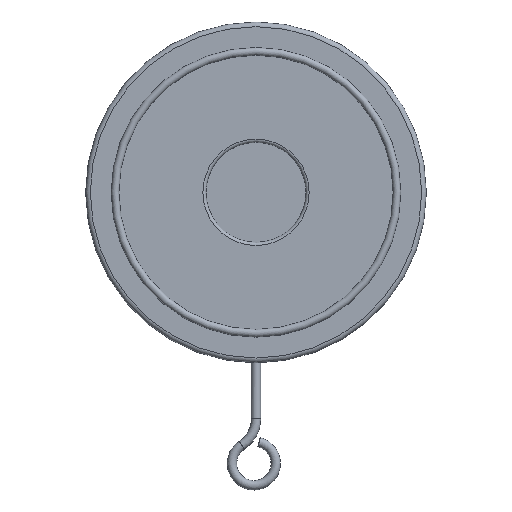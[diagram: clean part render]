
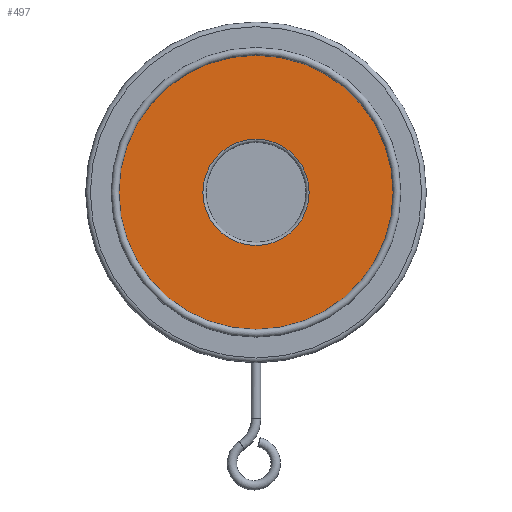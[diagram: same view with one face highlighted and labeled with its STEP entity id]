
A CAD part, top view. The second image highlights one B-rep face of the part: STEP entity #497.
In plain terms, the highlighted planar face has unit normal (0, 0, 1).
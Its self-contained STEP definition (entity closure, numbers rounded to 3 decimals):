
#497 = ADVANCED_FACE( '', ( #1126, #1127 ), #1128, .F. );
#1126 = FACE_BOUND( '', #1933, .T. );
#1127 = FACE_OUTER_BOUND( '', #1934, .T. );
#1128 = PLANE( '', #1935 );
#1933 = EDGE_LOOP( '', ( #3711 ) );
#1934 = EDGE_LOOP( '', ( #3712 ) );
#1935 = AXIS2_PLACEMENT_3D( '', #3713, #3714, #3715 );
#3711 = ORIENTED_EDGE( '', *, *, #5333, .T. );
#3712 = ORIENTED_EDGE( '', *, *, #5334, .T. );
#3713 = CARTESIAN_POINT( '', ( 0., 0., 7. ) );
#3714 = DIRECTION( '', ( 0., 0., -1. ) );
#3715 = DIRECTION( '', ( -1., 0., 0. ) );
#5333 = EDGE_CURVE( '', #6407, #6407, #6408, .T. );
#5334 = EDGE_CURVE( '', #6409, #6409, #6410, .T. );
#6407 = VERTEX_POINT( '', #9215 );
#6408 = CIRCLE( '', #9216, 17. );
#6409 = VERTEX_POINT( '', #9217 );
#6410 = CIRCLE( '', #9218, 43.875 );
#9215 = CARTESIAN_POINT( '', ( -17., 0., 7. ) );
#9216 = AXIS2_PLACEMENT_3D( '', #9996, #9997, #9998 );
#9217 = CARTESIAN_POINT( '', ( 43.875, 0., 7. ) );
#9218 = AXIS2_PLACEMENT_3D( '', #9999, #10000, #10001 );
#9996 = CARTESIAN_POINT( '', ( 0., 0., 7. ) );
#9997 = DIRECTION( '', ( 0., 0., -1. ) );
#9998 = DIRECTION( '', ( -1., 0., 0. ) );
#9999 = CARTESIAN_POINT( '', ( 0., 0., 7. ) );
#10000 = DIRECTION( '', ( 0., 0., 1. ) );
#10001 = DIRECTION( '', ( 1., 0., 0. ) );
